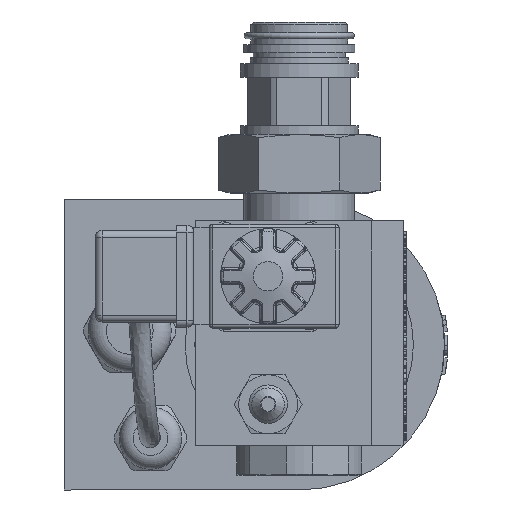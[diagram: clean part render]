
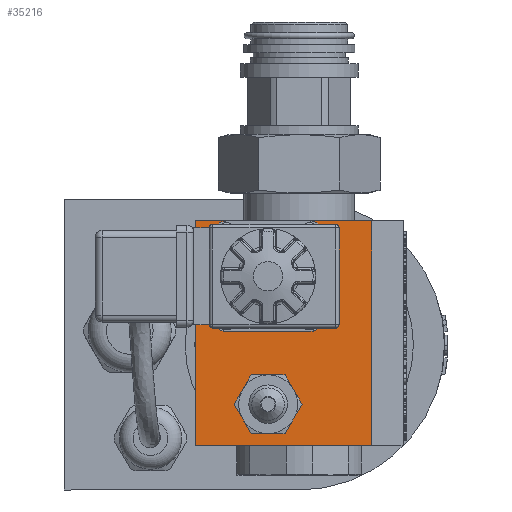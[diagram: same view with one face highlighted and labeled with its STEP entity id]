
A CAD part, left-side view. The second image highlights one B-rep face of the part: STEP entity #35216.
In plain terms, the highlighted planar face has unit normal (-1, 0, 0).
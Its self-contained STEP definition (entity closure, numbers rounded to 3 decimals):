
#4603=LINE('',#64467,#7504);
#4606=LINE('',#64472,#7507);
#4609=LINE('',#64481,#7510);
#4616=LINE('',#64510,#7517);
#4842=LINE('',#66218,#7743);
#4843=LINE('',#66222,#7744);
#4844=LINE('',#66226,#7745);
#4845=LINE('',#66230,#7746);
#7504=VECTOR('',#42575,65.);
#7507=VECTOR('',#42580,51.);
#7510=VECTOR('',#42591,65.);
#7517=VECTOR('',#42616,51.);
#7743=VECTOR('',#43890,24.);
#7744=VECTOR('',#43893,24.);
#7745=VECTOR('',#43896,24.);
#7746=VECTOR('',#43899,24.);
#8446=FACE_BOUND('',#12293,.T.);
#8447=FACE_BOUND('',#12294,.T.);
#10088=FACE_OUTER_BOUND('',#12292,.T.);
#12292=EDGE_LOOP('',(#30214,#30215,#30216,#30217));
#12293=EDGE_LOOP('',(#30218,#30219,#30220,#30221,#30222,#30223));
#12294=EDGE_LOOP('',(#30224,#30225,#30226,#30227,#30228,#30229,#30230,#30231));
#12767=CIRCLE('',#36579,8.5);
#12768=CIRCLE('',#36581,8.5);
#12769=CIRCLE('',#36583,8.5);
#12770=CIRCLE('',#36585,8.5);
#12771=CIRCLE('',#36587,8.5);
#12772=CIRCLE('',#36589,8.5);
#13076=CIRCLE('',#37211,3.975);
#13077=CIRCLE('',#37212,3.975);
#13078=CIRCLE('',#37213,3.975);
#13079=CIRCLE('',#37214,3.975);
#15917=VERTEX_POINT('',#64202);
#15918=VERTEX_POINT('',#64206);
#15919=VERTEX_POINT('',#64212);
#15922=VERTEX_POINT('',#64223);
#15924=VERTEX_POINT('',#64233);
#15925=VERTEX_POINT('',#64242);
#15983=VERTEX_POINT('',#64464);
#15984=VERTEX_POINT('',#64466);
#15985=VERTEX_POINT('',#64470);
#15987=VERTEX_POINT('',#64479);
#16307=VERTEX_POINT('',#66216);
#16308=VERTEX_POINT('',#66217);
#16309=VERTEX_POINT('',#66219);
#16310=VERTEX_POINT('',#66221);
#16311=VERTEX_POINT('',#66223);
#16312=VERTEX_POINT('',#66225);
#16313=VERTEX_POINT('',#66227);
#16314=VERTEX_POINT('',#66229);
#20345=EDGE_CURVE('',#15917,#15918,#12767,.T.);
#20347=EDGE_CURVE('',#15918,#15919,#12768,.T.);
#20351=EDGE_CURVE('',#15922,#15917,#12769,.T.);
#20354=EDGE_CURVE('',#15924,#15922,#12770,.T.);
#20356=EDGE_CURVE('',#15919,#15925,#12771,.T.);
#20359=EDGE_CURVE('',#15925,#15924,#12772,.T.);
#20441=EDGE_CURVE('',#15983,#15984,#4603,.T.);
#20444=EDGE_CURVE('',#15983,#15985,#4606,.T.);
#20448=EDGE_CURVE('',#15985,#15987,#4609,.T.);
#20462=EDGE_CURVE('',#15987,#15984,#4616,.T.);
#21000=EDGE_CURVE('',#16307,#16308,#4842,.T.);
#21001=EDGE_CURVE('',#16308,#16309,#13076,.T.);
#21002=EDGE_CURVE('',#16309,#16310,#4843,.T.);
#21003=EDGE_CURVE('',#16310,#16311,#13077,.T.);
#21004=EDGE_CURVE('',#16311,#16312,#4844,.T.);
#21005=EDGE_CURVE('',#16312,#16313,#13078,.T.);
#21006=EDGE_CURVE('',#16313,#16314,#4845,.T.);
#21007=EDGE_CURVE('',#16314,#16307,#13079,.T.);
#30214=ORIENTED_EDGE('',*,*,#20441,.F.);
#30215=ORIENTED_EDGE('',*,*,#20444,.T.);
#30216=ORIENTED_EDGE('',*,*,#20448,.T.);
#30217=ORIENTED_EDGE('',*,*,#20462,.T.);
#30218=ORIENTED_EDGE('',*,*,#20345,.T.);
#30219=ORIENTED_EDGE('',*,*,#20347,.T.);
#30220=ORIENTED_EDGE('',*,*,#20356,.T.);
#30221=ORIENTED_EDGE('',*,*,#20359,.T.);
#30222=ORIENTED_EDGE('',*,*,#20354,.T.);
#30223=ORIENTED_EDGE('',*,*,#20351,.T.);
#30224=ORIENTED_EDGE('',*,*,#21000,.T.);
#30225=ORIENTED_EDGE('',*,*,#21001,.T.);
#30226=ORIENTED_EDGE('',*,*,#21002,.T.);
#30227=ORIENTED_EDGE('',*,*,#21003,.T.);
#30228=ORIENTED_EDGE('',*,*,#21004,.T.);
#30229=ORIENTED_EDGE('',*,*,#21005,.T.);
#30230=ORIENTED_EDGE('',*,*,#21006,.T.);
#30231=ORIENTED_EDGE('',*,*,#21007,.T.);
#32669=PLANE('',#37210);
#35216=ADVANCED_FACE('',(#10088,#8446,#8447),#32669,.T.);
#36579=AXIS2_PLACEMENT_3D('',#64210,#42356,#42357);
#36581=AXIS2_PLACEMENT_3D('',#64217,#42360,#42361);
#36583=AXIS2_PLACEMENT_3D('',#64230,#42364,#42365);
#36585=AXIS2_PLACEMENT_3D('',#64240,#42368,#42369);
#36587=AXIS2_PLACEMENT_3D('',#64247,#42372,#42373);
#36589=AXIS2_PLACEMENT_3D('',#64256,#42376,#42377);
#37210=AXIS2_PLACEMENT_3D('',#66215,#43888,#43889);
#37211=AXIS2_PLACEMENT_3D('',#66220,#43891,#43892);
#37212=AXIS2_PLACEMENT_3D('',#66224,#43894,#43895);
#37213=AXIS2_PLACEMENT_3D('',#66228,#43897,#43898);
#37214=AXIS2_PLACEMENT_3D('',#66231,#43900,#43901);
#42356=DIRECTION('center_axis',(1.,0.,0.));
#42357=DIRECTION('ref_axis',(0.,-0.5,
0.866));
#42360=DIRECTION('center_axis',(1.,0.,0.));
#42361=DIRECTION('ref_axis',(0.,-0.5,
0.866));
#42364=DIRECTION('center_axis',(1.,0.,0.));
#42365=DIRECTION('ref_axis',(0.,-0.5,
0.866));
#42368=DIRECTION('center_axis',(1.,0.,0.));
#42369=DIRECTION('ref_axis',(0.,-0.5,
0.866));
#42372=DIRECTION('center_axis',(1.,0.,0.));
#42373=DIRECTION('ref_axis',(0.,-0.5,
0.866));
#42376=DIRECTION('center_axis',(1.,0.,0.));
#42377=DIRECTION('ref_axis',(0.,-0.5,
0.866));
#42575=DIRECTION('',(0.,0.,-1.));
#42580=DIRECTION('',(0.,1.,0.));
#42591=DIRECTION('',(0.,0.,-1.));
#42616=DIRECTION('',(0.,-1.,0.));
#43888=DIRECTION('center_axis',(-1.,0.,0.));
#43889=DIRECTION('ref_axis',(0.,0.,1.));
#43890=DIRECTION('',(0.,0.,1.));
#43891=DIRECTION('center_axis',(1.,0.,0.));
#43892=DIRECTION('ref_axis',(0.,0.,-1.));
#43893=DIRECTION('',(0.,-1.,0.));
#43894=DIRECTION('center_axis',(1.,0.,0.));
#43895=DIRECTION('ref_axis',(0.,0.,-1.));
#43896=DIRECTION('',(0.,0.,-1.));
#43897=DIRECTION('center_axis',(1.,0.,0.));
#43898=DIRECTION('ref_axis',(0.,0.,-1.));
#43899=DIRECTION('',(0.,1.,0.));
#43900=DIRECTION('center_axis',(1.,0.,0.));
#43901=DIRECTION('ref_axis',(0.,0.,-1.));
#64202=CARTESIAN_POINT('',(-34.,45.861,7.75));
#64206=CARTESIAN_POINT('',(-34.,45.861,16.25));
#64210=CARTESIAN_POINT('Origin',(-34.,38.5,12.));
#64212=CARTESIAN_POINT('',(-34.,38.5,20.5));
#64217=CARTESIAN_POINT('Origin',(-34.,38.5,12.));
#64223=CARTESIAN_POINT('',(-34.,38.5,3.5));
#64230=CARTESIAN_POINT('Origin',(-34.,38.5,12.));
#64233=CARTESIAN_POINT('',(-34.,31.139,7.75));
#64240=CARTESIAN_POINT('Origin',(-34.,38.5,12.));
#64242=CARTESIAN_POINT('',(-34.,31.139,16.25));
#64247=CARTESIAN_POINT('Origin',(-34.,38.5,12.));
#64256=CARTESIAN_POINT('Origin',(-34.,38.5,12.));
#64464=CARTESIAN_POINT('',(-34.,8.5,65.));
#64466=CARTESIAN_POINT('',(-34.,8.5,0.));
#64467=CARTESIAN_POINT('',(-34.,8.5,32.5));
#64470=CARTESIAN_POINT('',(-34.,59.5,65.));
#64472=CARTESIAN_POINT('',(-34.,-0.5,65.));
#64479=CARTESIAN_POINT('',(-34.,59.5,0.));
#64481=CARTESIAN_POINT('',(-34.,59.5,65.));
#64510=CARTESIAN_POINT('',(-34.,59.5,0.));
#66215=CARTESIAN_POINT('Origin',(-34.,29.5,32.5));
#66216=CARTESIAN_POINT('',(-34.,54.475,37.));
#66217=CARTESIAN_POINT('',(-34.,54.475,61.));
#66218=CARTESIAN_POINT('',(-34.,54.475,36.52));
#66219=CARTESIAN_POINT('',(-34.,50.5,64.975));
#66220=CARTESIAN_POINT('Origin',(-34.,50.5,61.));
#66221=CARTESIAN_POINT('',(-34.,26.5,64.975));
#66222=CARTESIAN_POINT('',(-34.,50.98,64.975));
#66223=CARTESIAN_POINT('',(-34.,22.525,61.));
#66224=CARTESIAN_POINT('Origin',(-34.,26.5,61.));
#66225=CARTESIAN_POINT('',(-34.,22.525,37.));
#66226=CARTESIAN_POINT('',(-34.,22.525,61.48));
#66227=CARTESIAN_POINT('',(-34.,26.5,33.025));
#66228=CARTESIAN_POINT('Origin',(-34.,26.5,37.));
#66229=CARTESIAN_POINT('',(-34.,50.5,33.025));
#66230=CARTESIAN_POINT('',(-34.,26.02,33.025));
#66231=CARTESIAN_POINT('Origin',(-34.,50.5,37.));
